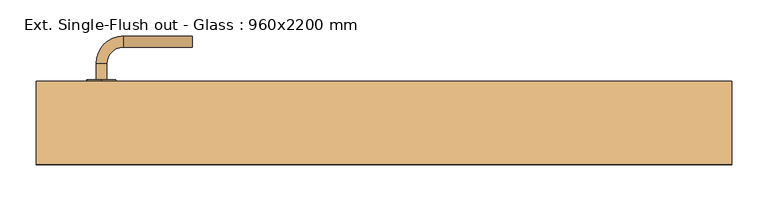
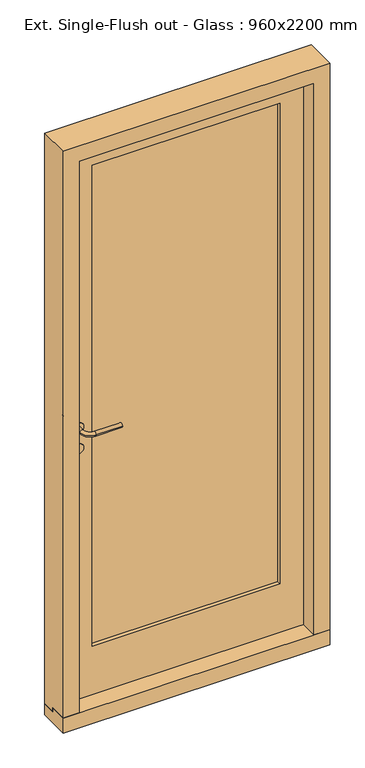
"""IFC4 building model written with IfcOpenShell, lengths in millimetres: door geometry, Ext. Single-Flush out - Glass : 960x2200 mm."""

import ifcopenshell
import ifcopenshell.guid

model = None  # the IFC model being written
_history = None  # IfcOwnerHistory: only IFC2X3 demands one
_inside = {}  # id of a spatial element -> (the spatial element, [elements in it])
_under = {}  # id of a project, library or spatial element -> (it, [spatial elements below it])
_declared = {}  # id of a project -> (the project, [libraries it declares])
_typed = {}  # id of a type object -> (the type object, [elements of that type])
_made_of = {}  # id of a material, layer set ... -> (it, [elements and type objects made of it])


def new_model(schema):
    """Start an empty IFC model of exactly this schema.

    Asked for "IFC4X3", IfcOpenShell would pick the latest addendum, in which some entities
    have other attributes; the version numbers below select the first issue.
    IFC2X3 requires an IfcOwnerHistory on every rooted entity: one is made here for all.
    """
    global model, _history
    if schema == "IFC4X3":
        model = ifcopenshell.file(schema_version=(4, 3, 0, 0))
    else:
        model = ifcopenshell.file(schema=schema)
    _inside.clear()
    _under.clear()
    _declared.clear()
    _typed.clear()
    _made_of.clear()
    _history = None
    if model.schema == "IFC2X3":
        org = make("IfcOrganization", Name="unknown")
        user = make(
            "IfcPersonAndOrganization",
            ThePerson=make("IfcPerson", FamilyName="unknown"),
            TheOrganization=org,
        )
        app = make(
            "IfcApplication",
            ApplicationDeveloper=org,
            Version="unknown",
            ApplicationFullName="unknown",
            ApplicationIdentifier="unknown",
        )
        _history = make(
            "IfcOwnerHistory",
            OwningUser=user,
            OwningApplication=app,
            ChangeAction="ADDED",
            CreationDate=0,
        )
    return model


def make(cls, **values):
    """One entity of the class cls with the attributes given. An attribute that is None is left unset."""
    return model.create_entity(
        cls, **{name: value for name, value in values.items() if value is not None}
    )


def rooted(cls, **values):
    """An entity with a GlobalId (a new one), such as an element, a storey or a relation."""
    return make(cls, GlobalId=ifcopenshell.guid.new(), OwnerHistory=_history, **values)


def si_unit(unit_type, name, prefix=None):
    """IfcSIUnit, for example si_unit("LENGTHUNIT", "METRE", prefix="MILLI")."""
    return make("IfcSIUnit", UnitType=unit_type, Prefix=prefix, Name=name)


def assignment(units):
    """IfcUnitAssignment: the units of a project."""
    return None if units is None else make("IfcUnitAssignment", Units=units)


def point(xyz):
    """IfcCartesianPoint."""
    return None if xyz is None else make("IfcCartesianPoint", Coordinates=xyz)


def direction(xyz):
    """IfcDirection."""
    return None if xyz is None else make("IfcDirection", DirectionRatios=xyz)


def frame(location, z_axis=None, x_axis=None):
    """IfcAxis2Placement3D, a coordinate frame: its origin and axes. An axis left out is left unset."""
    return make(
        "IfcAxis2Placement3D",
        Location=point(location),
        Axis=direction(z_axis),
        RefDirection=direction(x_axis),
    )


def frame_2d(location, x_axis=None):
    """IfcAxis2Placement2D, a coordinate frame in the plane: its origin and x axis."""
    return make(
        "IfcAxis2Placement2D", Location=point(location), RefDirection=direction(x_axis)
    )


def origin():
    """The frame at (0, 0, 0) with its axes left unset."""
    return frame((0.0, 0.0, 0.0))


def place(relative_to, where):
    """IfcLocalPlacement: puts the frame where relative to a parent placement (None: the world)."""
    return make(
        "IfcLocalPlacement", PlacementRelTo=relative_to, RelativePlacement=where
    )


def context(
    kind, dimensions, precision=None, world=None, true_north=None, identifier=None
):
    """IfcGeometricRepresentationContext, for example the 3D "Model" context."""
    return make(
        "IfcGeometricRepresentationContext",
        ContextIdentifier=identifier,
        ContextType=kind,
        CoordinateSpaceDimension=dimensions,
        Precision=precision,
        WorldCoordinateSystem=world,
        TrueNorth=true_north,
    )


def project(units=None, contexts=None):
    """IfcProject with its units and contexts."""
    return rooted(
        "IfcProject",
        Name="project",
        RepresentationContexts=contexts,
        UnitsInContext=assignment(units),
    )


def spatial(cls, under=None, at=None, **own):
    """A site, building, storey or space (cls), placed at a placement, below another one or the project."""
    s = rooted(cls, ObjectPlacement=at, **own)
    if under is not None:
        _under.setdefault(under.id(), (under, []))[1].append(s)
    return s


def polyline(points):
    """IfcPolyline through the points."""
    return make("IfcPolyline", Points=[point(p) for p in points])


def circle_curve(where, radius):
    """IfcCircle in the frame where."""
    return make("IfcCircle", Position=where, Radius=radius)


def ellipse_curve(where, semi_axis1, semi_axis2):
    """IfcEllipse in the frame where."""
    return make(
        "IfcEllipse", Position=where, SemiAxis1=semi_axis1, SemiAxis2=semi_axis2
    )


def trimmed(basis, trim1, trim2, sense, master):
    """IfcTrimmedCurve: the piece of a basis curve between two trims."""
    return make(
        "IfcTrimmedCurve",
        BasisCurve=basis,
        Trim1=trim1,
        Trim2=trim2,
        SenseAgreement=sense,
        MasterRepresentation=master,
    )


def segment(curve, same_sense, transition):
    """IfcCompositeCurveSegment."""
    return make(
        "IfcCompositeCurveSegment",
        Transition=transition,
        SameSense=same_sense,
        ParentCurve=curve,
    )


def composite_curve(segments, self_intersect=None):
    """IfcCompositeCurve: segments joined end to end."""
    return make("IfcCompositeCurve", Segments=segments, SelfIntersect=self_intersect)


def outline(outer, holes=None, kind="AREA"):
    """IfcArbitraryClosedProfileDef: a profile drawn as a closed curve; with holes, ...WithVoids."""
    if holes is None:
        return make("IfcArbitraryClosedProfileDef", ProfileType=kind, OuterCurve=outer)
    return make(
        "IfcArbitraryProfileDefWithVoids",
        ProfileType=kind,
        OuterCurve=outer,
        InnerCurves=holes,
    )


def extrude(swept, where, along, depth):
    """IfcExtrudedAreaSolid: the profile swept, set in the frame where, extruded along a direction by depth."""
    return make(
        "IfcExtrudedAreaSolid",
        SweptArea=swept,
        Position=where,
        ExtrudedDirection=direction(along),
        Depth=depth,
    )


def faces_of(points, faces, orient=None, outer=None):
    """IfcFace entities. A face is a list of loops; a loop is a list of indices into points, from 0.

    orient and outer hold one flag for each loop. By default every Orientation is true, the
    first loop of a face is its IfcFaceOuterBound and the others are IfcFaceBound.
    """
    made = []
    for i, loops in enumerate(faces):
        bounds = []
        for j, loop in enumerate(loops):
            is_outer = j == 0 if outer is None else outer[i][j]
            bounds.append(
                make(
                    "IfcFaceOuterBound" if is_outer else "IfcFaceBound",
                    Bound=make("IfcPolyLoop", Polygon=[points[k] for k in loop]),
                    Orientation=True if orient is None else orient[i][j],
                )
            )
        made.append(make("IfcFace", Bounds=bounds))
    return made


def faceted_brep(points, faces, orient=None, outer=None, voids=None):
    """IfcFacetedBrep: a solid bounded by flat faces; with voids (closed shells), ...WithVoids."""
    shared = [point(p) for p in points]
    hull = make("IfcClosedShell", CfsFaces=faces_of(shared, faces, orient, outer))
    if voids is None:
        return make("IfcFacetedBrep", Outer=hull)
    return make(
        "IfcFacetedBrepWithVoids",
        Outer=hull,
        Voids=[
            make(cls, CfsFaces=faces_of(shared, fs, o, b)) for cls, fs, o, b in voids
        ],
    )


def shape(context_of_items, identifier, shape_type, items):
    """IfcShapeRepresentation: the items that make up one representation, for example the "Body"."""
    return make(
        "IfcShapeRepresentation",
        ContextOfItems=context_of_items,
        RepresentationIdentifier=identifier,
        RepresentationType=shape_type,
        Items=items,
    )


def source(mapping_origin, context_of_items, identifier, shape_type, items):
    """IfcRepresentationMap: a shape defined once, which mapped items show again and again."""
    return make(
        "IfcRepresentationMap",
        MappingOrigin=mapping_origin,
        MappedRepresentation=shape(context_of_items, identifier, shape_type, items),
    )


def transform(
    local_origin,
    x_axis=None,
    y_axis=None,
    z_axis=None,
    scale=None,
    scale2=None,
    scale3=None,
    uniform=True,
):
    """IfcCartesianTransformationOperator3D, or its non-uniform kind. x_axis, y_axis, z_axis: its Axis1, 2, 3."""
    if uniform:
        return make(
            "IfcCartesianTransformationOperator3D",
            Axis1=direction(x_axis),
            Axis2=direction(y_axis),
            LocalOrigin=point(local_origin),
            Scale=scale,
            Axis3=direction(z_axis),
        )
    return make(
        "IfcCartesianTransformationOperator3DnonUniform",
        Axis1=direction(x_axis),
        Axis2=direction(y_axis),
        LocalOrigin=point(local_origin),
        Scale=scale,
        Axis3=direction(z_axis),
        Scale2=scale2,
        Scale3=scale3,
    )


def mapped(mapping_source, mapping_target):
    """IfcMappedItem: shows the shape of a source again, moved by a transform."""
    return make(
        "IfcMappedItem", MappingSource=mapping_source, MappingTarget=mapping_target
    )


def made_of(thing, what):
    """Note that an element or type object is made of a material, layer set ...; save() writes the relation."""
    if what is not None:
        _made_of.setdefault(what.id(), (what, []))[1].append(thing)
    return thing


def element(
    cls,
    number,
    at=None,
    inside=None,
    cuts=None,
    type_object=None,
    material=None,
    context=None,
    identifier="Body",
    shape_type=None,
    held_by="IfcProductDefinitionShape",
    body=None,
    shapes=None,
    **own,
):
    """One element of the class cls, such as IfcWall. Its Tag is "e" and its number.

    at: its placement. inside: the storey or other place that contains it. cuts: it is an
    opening in that element (IfcRelVoidsElement). A single representation is given by context,
    identifier, shape_type and body (its items); several are given by shapes. held_by: the class
    of the entity that holds the representations. save() writes the other relations.
    """
    e = rooted(cls, Tag="e%d" % number, ObjectPlacement=at, **own)
    if body is not None:
        shapes = [shape(context, identifier, shape_type, body)]
    if shapes is not None:
        e.Representation = make(held_by, Representations=shapes)
    if inside is not None:
        _inside.setdefault(inside.id(), (inside, []))[1].append(e)
    if cuts is not None:
        rooted(
            "IfcRelVoidsElement", RelatingBuildingElement=cuts, RelatedOpeningElement=e
        )
    if type_object is not None:
        _typed.setdefault(type_object.id(), (type_object, []))[1].append(e)
    return made_of(e, material)


def aggregate(whole, parts):
    """IfcRelAggregates: a whole, such as a stair, and the parts it consists of."""
    return rooted("IfcRelAggregates", RelatingObject=whole, RelatedObjects=parts)


def save(model, path):
    """Write the relations noted so far, then the file.

    IfcRelAggregates (storeys below a building ...), IfcRelContainedInSpatialStructure (elements
    in a storey), IfcRelDefinesByType, IfcRelAssociatesMaterial and IfcRelDeclares: one each for
    every whole, place, type object, material and project.
    """
    for whole, parts in _under.values():
        aggregate(whole, parts)
    for where, things in _inside.values():
        rooted(
            "IfcRelContainedInSpatialStructure",
            RelatedElements=things,
            RelatingStructure=where,
        )
    for kind, things in _typed.values():
        rooted("IfcRelDefinesByType", RelatedObjects=things, RelatingType=kind)
    for what, things in _made_of.values():
        rooted("IfcRelAssociatesMaterial", RelatedObjects=things, RelatingMaterial=what)
    for by, libraries in _declared.values():
        rooted("IfcRelDeclares", RelatingContext=by, RelatedDefinitions=libraries)
    model.write(path)


def plane_surface(at):
    """IfcPlane: the flat surface through the origin of the frame at, square to its z axis."""
    return make("IfcPlane", Position=at)


def cylinder_surface(at, radius):
    """IfcCylindricalSurface: all points at the distance radius from the z axis of the frame at."""
    return make("IfcCylindricalSurface", Position=at, Radius=radius)


def revolved_surface(curve, axis_point, axis_direction):
    """IfcSurfaceOfRevolution: the curve turned about the line through axis_point along axis_direction."""
    return make(
        "IfcSurfaceOfRevolution",
        SweptCurve=make("IfcArbitraryOpenProfileDef", ProfileType="CURVE", Curve=curve),
        AxisPosition=make("IfcAxis1Placement", Location=point(axis_point), Axis=direction(axis_direction)),
    )


def advanced_brep(points, edges, surfaces, faces):
    """IfcAdvancedBrep: a solid bounded by faces that lie on surfaces and meet in shared edges.

    An edge is (start, end): straight between two places in points (the first is 0);
    or (start, end, curve); or (start, end, curve, False) where it runs against its curve.
    A face is (place in surfaces, loops), or (place, loops, False) where it looks against
    its surface's normal. A loop lists edges by number (the first is 1), with a minus sign
    where the edge is run from its end to its start. The first loop is the outer one.
    """
    corners = [point(p) for p in points]
    vertices = [make("IfcVertexPoint", VertexGeometry=c) for c in corners]
    made = []
    for start, end, *more in edges:
        made.append(
            make(
                "IfcEdgeCurve",
                EdgeStart=vertices[start],
                EdgeEnd=vertices[end],
                EdgeGeometry=more[0] if more else make("IfcPolyline", Points=[corners[start], corners[end]]),
                SameSense=more[1] if len(more) > 1 else True,
            )
        )
    hull = []
    for where, loops, *sense in faces:
        bounds = []
        for j, loop in enumerate(loops):
            ring = [make("IfcOrientedEdge", EdgeElement=made[abs(k) - 1], Orientation=k > 0) for k in loop]
            bounds.append(
                make(
                    "IfcFaceOuterBound" if j == 0 else "IfcFaceBound",
                    Bound=make("IfcEdgeLoop", EdgeList=ring),
                    Orientation=True,
                )
            )
        hull.append(make("IfcAdvancedFace", Bounds=bounds, FaceSurface=surfaces[where], SameSense=sense[0] if sense else True))
    return make("IfcAdvancedBrep", Outer=make("IfcClosedShell", CfsFaces=hull))


def ext_single_flush_out_glass_960x2200_mm_f4f0ea2b(model_context):
    return source(origin(), model_context, "Body", "SolidModel", [
        extrude(outline(composite_curve([segment(trimmed(circle_curve(frame_2d((1090.0, -390.0)), 20.0), [point((1070.0, -390.0))], [point((1110.0, -390.0))], False, "CARTESIAN"), True, "CONTINUOUS"), segment(trimmed(circle_curve(frame_2d((1090.0, -390.0)), 20.0), [point((1110.0, -390.0))], [point((1070.0, -390.0))], False, "CARTESIAN"), True, "CONTINUOUS")], self_intersect=False)), frame((0.0, 190.0, 0.0), z_axis=(0.0, 1.0, 0.0), x_axis=(0.0, 0.0, 1.0)), (0.0, 0.0, 1.0), 2.0),
        advanced_brep(
        [(-397.5, 192.0, 1090.0), (-382.5, 192.0, 1090.0), (-397.5, 214.5, 1090.0), (-382.5, 214.5, 1090.0), (-360.0, 237.0, 1090.0), (-360.0, 252.0, 1090.0), (-265.0, 252.0, 1090.0), (-265.0, 237.0, 1090.0)],
        [
            (0, 1, circle_curve(frame((-390.0, 192.0, 1090.0), z_axis=(0.0, -1.0, 0.0), x_axis=(1.0, 0.0, 0.0)), 7.5)),
            (1, 0, circle_curve(frame((-390.0, 192.0, 1090.0), z_axis=(0.0, -1.0, 0.0), x_axis=(1.0, 0.0, 0.0)), 7.5)),
            (0, 2),
            (2, 3, circle_curve(frame((-390.0, 214.5, 1090.0), z_axis=(0.0, -1.0, 0.0), x_axis=(1.0, 0.0, 0.0)), 7.5)),
            (3, 1),
            (3, 2, circle_curve(frame((-390.0, 214.5, 1090.0), z_axis=(0.0, -1.0, 0.0), x_axis=(1.0, 0.0, 0.0)), 7.5)),
            (4, 3, circle_curve(frame((-360.0, 214.5, 1090.0), z_axis=(0.0, 0.0, 1.0), x_axis=(-1.0, 0.0, 0.0)), 22.5)),
            (2, 5, circle_curve(frame((-360.0, 214.5, 1090.0), z_axis=(0.0, 0.0, -1.0), x_axis=(-1.0, 0.0, 0.0)), 37.5)),
            (5, 4, circle_curve(frame((-360.0, 244.5, 1090.0), z_axis=(-1.0, 0.0, 0.0), x_axis=(0.0, -1.0, 0.0)), 7.5)),
            (4, 5, circle_curve(frame((-360.0, 244.5, 1090.0), z_axis=(-1.0, 0.0, 0.0), x_axis=(0.0, -1.0, 0.0)), 7.5)),
            (5, 6),
            (6, 7, circle_curve(frame((-265.0, 244.5, 1090.0), z_axis=(-1.0, 0.0, 0.0), x_axis=(0.0, -1.0, 0.0)), 7.5)),
            (7, 4),
            (7, 6, circle_curve(frame((-265.0, 244.5, 1090.0), z_axis=(-1.0, 0.0, 0.0), x_axis=(0.0, -1.0, 0.0)), 7.5)),
        ],
        [
            plane_surface(frame((-390.0, 192.0, 1090.0), z_axis=(0.0, -1.0, 0.0), x_axis=(0.0, 0.0, -1.0))),
            cylinder_surface(frame((-390.0, 192.0, 1090.0), z_axis=(0.0, -1.0, 0.0), x_axis=(1.0, 0.0, 0.0)), 7.5),
            revolved_surface(trimmed(ellipse_curve(frame((-390.0, 214.5, 1090.0), z_axis=(0.0, -1.0, 0.0), x_axis=(1.0, 0.0, 0.0)), 7.5, 7.5), [point((-397.5, 214.5, 1090.0))], [point((-382.5, 214.5, 1090.0))], True, "CARTESIAN"), (-360.0, 214.5, 1090.0), (0.0, 0.0, -1.0)),
            revolved_surface(trimmed(ellipse_curve(frame((-390.0, 214.5, 1090.0), z_axis=(0.0, -1.0, 0.0), x_axis=(1.0, 0.0, 0.0)), 7.5, 7.5), [point((-382.5, 214.5, 1090.0))], [point((-397.5, 214.5, 1090.0))], True, "CARTESIAN"), (-360.0, 214.5, 1090.0), (0.0, 0.0, -1.0)),
            cylinder_surface(frame((-360.0, 244.5, 1090.0), z_axis=(-1.0, 0.0, 0.0), x_axis=(0.0, -1.0, 0.0)), 7.5),
            plane_surface(frame((-265.0, 244.5, 1090.0), z_axis=(1.0, 0.0, 0.0), x_axis=(0.0, 0.0, -1.0))),
        ],
        [
            (0, [[1, 2]]),
            (1, [[-1, 3, 4, 5]]),
            (1, [[-2, -5, 6, -3]]),
            (2, [[7, -4, 8, 9]]),
            (3, [[-8, -6, -7, 10]]),
            (4, [[-9, 11, 12, 13]]),
            (4, [[-10, -13, 14, -11]]),
            (5, [[-14, -12]]),
        ],
    ),
        extrude(outline(composite_curve([segment(trimmed(circle_curve(frame_2d((1010.0, -390.0)), 20.0), [point((990.0, -390.0))], [point((1030.0, -390.0))], False, "CARTESIAN"), True, "CONTINUOUS"), segment(trimmed(circle_curve(frame_2d((1010.0, -390.0)), 20.0), [point((1030.0, -390.0))], [point((990.0, -390.0))], False, "CARTESIAN"), True, "CONTINUOUS")], self_intersect=False), holes=[composite_curve([segment(trimmed(circle_curve(frame_2d((1015.0, -390.0)), 3.0), [point((1012.4019238, -391.5))], [point((1012.4019238, -388.5))], True, "CARTESIAN"), True, "CONTINUOUS"), segment(polyline([(1012.4019238, -388.5), (1000.0, -388.5), (1000.0, -391.5), (1012.4019238, -391.5)]), True, "CONTINUOUS")], self_intersect=False)]), frame((0.0, 190.0, 0.0), z_axis=(0.0, 1.0, 0.0), x_axis=(0.0, 0.0, 1.0)), (0.0, 0.0, 1.0), 2.0),
        extrude(outline(composite_curve([segment(trimmed(circle_curve(frame_2d((1090.0, -390.0)), 20.0), [point((1070.0, -390.0))], [point((1110.0, -390.0))], False, "CARTESIAN"), True, "CONTINUOUS"), segment(trimmed(circle_curve(frame_2d((1090.0, -390.0)), 20.0), [point((1110.0, -390.0))], [point((1070.0, -390.0))], False, "CARTESIAN"), True, "CONTINUOUS")], self_intersect=False)), frame((0.0, 138.0, 0.0), z_axis=(0.0, 1.0, 0.0), x_axis=(0.0, 0.0, 1.0)), (0.0, 0.0, 1.0), 2.0),
        advanced_brep(
        [(-397.5, 138.0, 1090.0), (-382.5, 138.0, 1090.0), (-382.5, 115.5, 1090.0), (-397.5, 115.5, 1090.0), (-360.0, 93.0, 1090.0), (-360.0, 78.0, 1090.0), (-265.0, 93.0, 1090.0), (-265.0, 78.0, 1090.0)],
        [
            (0, 1, circle_curve(frame((-390.0, 138.0, 1090.0), z_axis=(0.0, 1.0, 0.0), x_axis=(1.0, 0.0, 0.0)), 7.5)),
            (1, 0, circle_curve(frame((-390.0, 138.0, 1090.0), z_axis=(0.0, 1.0, 0.0), x_axis=(1.0, 0.0, 0.0)), 7.5)),
            (1, 2),
            (2, 3, circle_curve(frame((-390.0, 115.5, 1090.0), z_axis=(0.0, 1.0, 0.0), x_axis=(1.0, 0.0, 0.0)), 7.5)),
            (3, 0),
            (3, 2, circle_curve(frame((-390.0, 115.5, 1090.0), z_axis=(0.0, 1.0, 0.0), x_axis=(1.0, 0.0, 0.0)), 7.5)),
            (4, 5, circle_curve(frame((-360.0, 85.5, 1090.0), z_axis=(-1.0, 0.0, 0.0), x_axis=(0.0, 1.0, 0.0)), 7.5)),
            (5, 3, circle_curve(frame((-360.0, 115.5, 1090.0), z_axis=(0.0, 0.0, -1.0), x_axis=(-1.0, 0.0, 0.0)), 37.5)),
            (2, 4, circle_curve(frame((-360.0, 115.5, 1090.0), z_axis=(0.0, 0.0, 1.0), x_axis=(-1.0, 0.0, 0.0)), 22.5)),
            (5, 4, circle_curve(frame((-360.0, 85.5, 1090.0), z_axis=(-1.0, 0.0, 0.0), x_axis=(0.0, 1.0, 0.0)), 7.5)),
            (4, 6),
            (6, 7, circle_curve(frame((-265.0, 85.5, 1090.0), z_axis=(-1.0, 0.0, 0.0), x_axis=(0.0, 1.0, 0.0)), 7.5)),
            (7, 5),
            (7, 6, circle_curve(frame((-265.0, 85.5, 1090.0), z_axis=(-1.0, 0.0, 0.0), x_axis=(0.0, 1.0, 0.0)), 7.5)),
        ],
        [
            plane_surface(frame((-390.0, 138.0, 1090.0), z_axis=(0.0, 1.0, 0.0), x_axis=(0.0, 0.0, -1.0))),
            cylinder_surface(frame((-390.0, 138.0, 1090.0), z_axis=(0.0, 1.0, 0.0), x_axis=(1.0, 0.0, 0.0)), 7.5),
            revolved_surface(trimmed(ellipse_curve(frame((-390.0, 115.5, 1090.0), z_axis=(0.0, -1.0, 0.0), x_axis=(1.0, 0.0, 0.0)), 7.5, 7.5), [point((-397.5, 115.5, 1090.0))], [point((-382.5, 115.5, 1090.0))], True, "CARTESIAN"), (-360.0, 115.5, 1090.0), (0.0, 0.0, -1.0)),
            revolved_surface(trimmed(ellipse_curve(frame((-390.0, 115.5, 1090.0), z_axis=(0.0, -1.0, 0.0), x_axis=(1.0, 0.0, 0.0)), 7.5, 7.5), [point((-382.5, 115.5, 1090.0))], [point((-397.5, 115.5, 1090.0))], True, "CARTESIAN"), (-360.0, 115.5, 1090.0), (0.0, 0.0, -1.0)),
            cylinder_surface(frame((-360.0, 85.5, 1090.0), z_axis=(-1.0, 0.0, 0.0), x_axis=(0.0, 1.0, 0.0)), 7.5),
            plane_surface(frame((-265.0, 85.5, 1090.0), z_axis=(1.0, 0.0, 0.0), x_axis=(0.0, 0.0, -1.0))),
        ],
        [
            (0, [[1, 2]]),
            (1, [[3, 4, 5, -2]]),
            (1, [[-5, 6, -3, -1]]),
            (2, [[7, 8, -4, 9]]),
            (3, [[10, -9, -6, -8]]),
            (4, [[11, 12, 13, -7]]),
            (4, [[-13, 14, -11, -10]]),
            (5, [[-12, -14]]),
        ],
    ),
        extrude(outline(composite_curve([segment(trimmed(circle_curve(frame_2d((1010.0, -390.0)), 20.0), [point((990.0, -390.0))], [point((1030.0, -390.0))], False, "CARTESIAN"), True, "CONTINUOUS"), segment(trimmed(circle_curve(frame_2d((1010.0, -390.0)), 20.0), [point((1030.0, -390.0))], [point((990.0, -390.0))], False, "CARTESIAN"), True, "CONTINUOUS")], self_intersect=False), holes=[composite_curve([segment(trimmed(circle_curve(frame_2d((1015.0, -390.0)), 3.0), [point((1012.4019238, -391.5))], [point((1012.4019238, -388.5))], True, "CARTESIAN"), True, "CONTINUOUS"), segment(polyline([(1012.4019238, -388.5), (1000.0, -388.5), (1000.0, -391.5), (1012.4019238, -391.5)]), True, "CONTINUOUS")], self_intersect=False)]), frame((0.0, 138.0, 0.0), z_axis=(0.0, 1.0, 0.0), x_axis=(0.0, 0.0, 1.0)), (0.0, 0.0, 1.0), 2.0),
        extrude(outline(polyline([(190.0, 42.0), (190.0, 0.0), (75.0, 0.0), (75.0, 57.0), (140.0, 57.0), (140.0, 42.0), (190.0, 42.0)])), frame((-480.0, 0.0, 0.0), z_axis=(1.0, 0.0, 0.0), x_axis=(0.0, 1.0, 0.0)), (0.0, 0.0, 1.0), 960.0),
        extrude(outline(polyline([(-338.0, 176.0), (338.0, 176.0), (338.0, 154.0), (-338.0, 154.0), (-338.0, 176.0)])), frame((0.0, 0.0, 242.0), z_axis=(0.0, 0.0, 1.0), x_axis=(1.0, 0.0, 0.0)), (0.0, 0.0, 1.0), 1828.0),
        extrude(outline(polyline([(2170.0, -438.0), (42.0, -438.0), (42.0, 438.0), (2170.0, 438.0), (2170.0, -438.0)]), holes=[polyline([(2070.0, -338.0), (2070.0, 338.0), (242.0, 338.0), (242.0, -338.0), (2070.0, -338.0)])]), frame((0.0, 140.0, 0.0), z_axis=(0.0, 1.0, 0.0), x_axis=(0.0, 0.0, 1.0)), (0.0, 0.0, 1.0), 50.0),
        faceted_brep([(438.0, 190.0, 2170.0), (-438.0, 190.0, 2170.0), (-438.0, 190.0, 42.0), (-480.0, 190.0, 42.0), (-480.0, 190.0, 2212.0), (480.0, 190.0, 2212.0), (480.0, 190.0, 42.0), (438.0, 190.0, 42.0), (-438.0, 140.0, 2170.0), (-438.0, 140.0, 57.0), (-438.0, 140.0, 42.0), (480.0, 140.0, 42.0), (438.0, 140.0, 42.0), (-480.0, 140.0, 42.0), (-480.0, 75.0, 2212.0), (-480.0, 140.0, 57.0), (-480.0, 75.0, 57.0), (480.0, 75.0, 2212.0), (480.0, 75.0, 57.0), (480.0, 140.0, 57.0), (438.0, 140.0, 2170.0), (438.0, 140.0, 57.0), (-423.0, 75.0, 57.0), (-423.0, 75.0, 2155.0), (423.0, 75.0, 2155.0), (423.0, 75.0, 57.0), (423.0, 140.0, 57.0), (-423.0, 140.0, 57.0), (-423.0, 140.0, 2155.0), (423.0, 140.0, 2155.0)], [[[0, 1, 2, 3, 4, 5, 6, 7]], [[1, 8, 9, 10, 2]], [[11, 12, 7, 6]], [[10, 13, 3, 2]], [[14, 4, 3, 13, 15, 16]], [[5, 17, 18, 19, 11, 6]], [[20, 0, 7, 12, 21]], [[17, 14, 16, 22, 23, 24, 25, 18]], [[21, 19, 18, 25, 26]], [[15, 9, 27, 22, 16]], [[19, 21, 12, 11]], [[9, 15, 13, 10]], [[28, 23, 22, 27]], [[24, 29, 26, 25]], [[29, 28, 27, 9, 8, 20, 21, 26]], [[5, 4, 14, 17]], [[24, 23, 28, 29]], [[1, 0, 20, 8]]]),
    ])


if __name__ == "__main__":
    model = new_model("IFC4")
    model_context = context("Model", 3, world=origin())
    ifc_project = project(units=[si_unit("LENGTHUNIT", "METRE", prefix="MILLI")], contexts=[model_context])
    site = spatial("IfcSite", under=ifc_project)
    building = spatial("IfcBuilding", under=site)
    placement = place(None, origin())
    ext_single_flush_out_glass_960x2200_mm_shape = ext_single_flush_out_glass_960x2200_mm_f4f0ea2b(model_context)
    element("IfcDoor", 1, ObjectType="Ext. Single-Flush out - Glass : 960x2200 mm", at=placement, inside=building, context=model_context, shape_type="MappedRepresentation", body=[
        mapped(ext_single_flush_out_glass_960x2200_mm_shape, transform((0.0, 0.0, 0.0), x_axis=(1.0, 0.0, 0.0), y_axis=(0.0, 1.0, 0.0), z_axis=(0.0, 0.0, 1.0))),
    ])
    save(model, "model.ifc")
